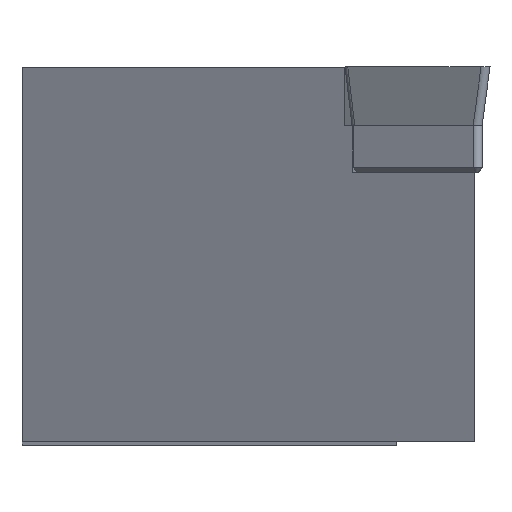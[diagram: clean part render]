
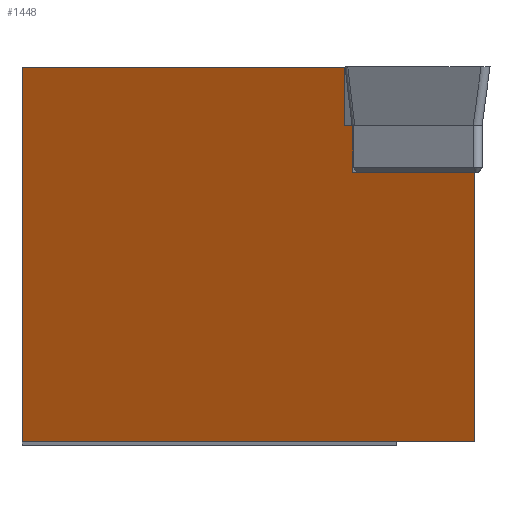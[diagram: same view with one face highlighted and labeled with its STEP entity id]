
A CAD part, top view. The second image highlights one B-rep face of the part: STEP entity #1448.
In plain terms, the highlighted planar face has unit normal (-0.53, 0, 0.848).
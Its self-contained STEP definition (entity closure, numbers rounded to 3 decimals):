
#58 = ORIENTED_EDGE ( 'NONE', *, *, #1150, .F. ) ;
#66 = EDGE_CURVE ( 'NONE', #311, #684, #347, .T. ) ;
#104 = VECTOR ( 'NONE', #1742, 1000. ) ;
#192 = EDGE_CURVE ( 'NONE', #1424, #1343, #698, .T. ) ;
#232 = ORIENTED_EDGE ( 'NONE', *, *, #66, .F. ) ;
#291 = CARTESIAN_POINT ( 'NONE',  ( 6.697, 5.55, -6.633 ) ) ;
#297 = VECTOR ( 'NONE', #726, 1000. ) ;
#311 = VERTEX_POINT ( 'NONE', #922 ) ;
#331 = CARTESIAN_POINT ( 'NONE',  ( 6.697, 5.55, -6.633 ) ) ;
#347 = LINE ( 'NONE', #431, #502 ) ;
#391 = LINE ( 'NONE', #1609, #716 ) ;
#392 = CARTESIAN_POINT ( 'NONE',  ( -21.371, -12.7, -24.172 ) ) ;
#423 = VECTOR ( 'NONE', #1577, 1000. ) ;
#430 = CARTESIAN_POINT ( 'NONE',  ( 1.947, 5.55, -9.601 ) ) ;
#431 = CARTESIAN_POINT ( 'NONE',  ( 6.118, 10.63, -6.995 ) ) ;
#491 = VERTEX_POINT ( 'NONE', #581 ) ;
#502 = VECTOR ( 'NONE', #1141, 1000. ) ;
#511 = CARTESIAN_POINT ( 'NONE',  ( -15.75, 12.7, -20.66 ) ) ;
#531 = DIRECTION ( 'NONE',  ( 0., 1., 0. ) ) ;
#562 = EDGE_CURVE ( 'NONE', #857, #1620, #1347, .T. ) ;
#581 = CARTESIAN_POINT ( 'NONE',  ( 14.98, -12.7, -1.458 ) ) ;
#585 = CARTESIAN_POINT ( 'NONE',  ( 16.381, 8.73, -0.582 ) ) ;
#602 = VECTOR ( 'NONE', #1543, 1000. ) ;
#662 = EDGE_CURVE ( 'NONE', #311, #1424, #669, .T. ) ;
#669 = LINE ( 'NONE', #1426, #297 ) ;
#671 = CARTESIAN_POINT ( 'NONE',  ( -15.75, -12.7, -20.66 ) ) ;
#684 = VERTEX_POINT ( 'NONE', #1143 ) ;
#687 = VECTOR ( 'NONE', #1663, 1000. ) ;
#689 = EDGE_CURVE ( 'NONE', #684, #967, #1272, .T. ) ;
#698 = LINE ( 'NONE', #511, #423 ) ;
#716 = VECTOR ( 'NONE', #531, 1000. ) ;
#720 = ORIENTED_EDGE ( 'NONE', *, *, #1419, .T. ) ;
#726 = DIRECTION ( 'NONE',  ( -0.848, 0., -0.53 ) ) ;
#755 = ORIENTED_EDGE ( 'NONE', *, *, #562, .T. ) ;
#857 = VERTEX_POINT ( 'NONE', #1308 ) ;
#884 = ORIENTED_EDGE ( 'NONE', *, *, #192, .T. ) ;
#922 = CARTESIAN_POINT ( 'NONE',  ( 6.118, 12.7, -6.995 ) ) ;
#951 = DIRECTION ( 'NONE',  ( 0.53, 0., -0.848 ) ) ;
#952 = FACE_OUTER_BOUND ( 'NONE', #1653, .T. ) ;
#964 = ORIENTED_EDGE ( 'NONE', *, *, #1411, .F. ) ;
#967 = VERTEX_POINT ( 'NONE', #1628 ) ;
#1026 = AXIS2_PLACEMENT_3D ( 'NONE', #392, #951, #1085 ) ;
#1083 = LINE ( 'NONE', #1610, #104 ) ;
#1085 = DIRECTION ( 'NONE',  ( -0.848, 0., -0.53 ) ) ;
#1141 = DIRECTION ( 'NONE',  ( 0., -1., 0. ) ) ;
#1143 = CARTESIAN_POINT ( 'NONE',  ( 6.118, 8.73, -6.995 ) ) ;
#1150 = EDGE_CURVE ( 'NONE', #967, #1620, #1442, .T. ) ;
#1182 = DIRECTION ( 'NONE',  ( 0.848, 0., 0.53 ) ) ;
#1219 = PLANE ( 'NONE',  #1026 ) ;
#1272 = LINE ( 'NONE', #585, #1321 ) ;
#1308 = CARTESIAN_POINT ( 'NONE',  ( 14.98, 5.55, -1.458 ) ) ;
#1310 = ORIENTED_EDGE ( 'NONE', *, *, #689, .F. ) ;
#1321 = VECTOR ( 'NONE', #1182, 1000. ) ;
#1343 = VERTEX_POINT ( 'NONE', #671 ) ;
#1344 = CARTESIAN_POINT ( 'NONE',  ( -15.75, 12.7, -20.66 ) ) ;
#1347 = LINE ( 'NONE', #430, #687 ) ;
#1358 = ORIENTED_EDGE ( 'NONE', *, *, #662, .T. ) ;
#1411 = EDGE_CURVE ( 'NONE', #491, #1343, #1083, .T. ) ;
#1419 = EDGE_CURVE ( 'NONE', #491, #857, #391, .T. ) ;
#1424 = VERTEX_POINT ( 'NONE', #1344 ) ;
#1426 = CARTESIAN_POINT ( 'NONE',  ( -21.371, 12.7, -24.172 ) ) ;
#1442 = LINE ( 'NONE', #331, #602 ) ;
#1448 = ADVANCED_FACE ( 'NONE', ( #952 ), #1219, .F. ) ;
#1543 = DIRECTION ( 'NONE',  ( 0., -1., 0. ) ) ;
#1577 = DIRECTION ( 'NONE',  ( 0., -1., 0. ) ) ;
#1609 = CARTESIAN_POINT ( 'NONE',  ( 14.98, -12.7, -1.458 ) ) ;
#1610 = CARTESIAN_POINT ( 'NONE',  ( -21.371, -12.7, -24.172 ) ) ;
#1620 = VERTEX_POINT ( 'NONE', #291 ) ;
#1628 = CARTESIAN_POINT ( 'NONE',  ( 6.697, 8.73, -6.633 ) ) ;
#1653 = EDGE_LOOP ( 'NONE', ( #884, #964, #720, #755, #58, #1310, #232, #1358 ) ) ;
#1663 = DIRECTION ( 'NONE',  ( -0.848, 0., -0.53 ) ) ;
#1742 = DIRECTION ( 'NONE',  ( -0.848, 0., -0.53 ) ) ;
